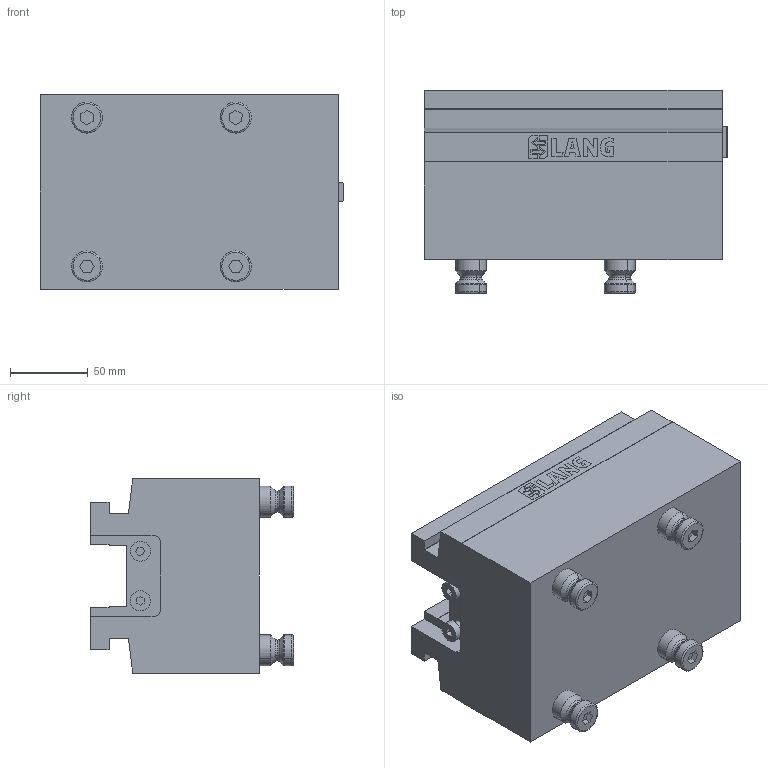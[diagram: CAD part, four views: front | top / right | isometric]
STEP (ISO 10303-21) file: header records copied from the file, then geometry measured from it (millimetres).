
FILE_DESCRIPTION (( 'STEP AP214' ), '1' );
FILE_NAME ('81022.STEP', '2020-10-28T06:42:05', ( '' ), ( '' ), 'SwSTEP 2.0', 'SolidWorks 2019', '' );
FILE_SCHEMA (( 'AUTOMOTIVE_DESIGN' ));
Length unit declared in the file: millimetre
Products named in the file (1): 81022
Bounding box: 195.49 x 131 x 125.6 mm (x, y, z)
Volume: 2266962.5 mm3; surface area: 142814.3 mm2
Topology: 9 solids, 9 shells, 489 faces, 1211 edges, 771 vertices
Faces by surface type: plane 304, cylinder 60, cone 49, bspline 40, torus 36
Entity records: 20147 total; most frequent: CARTESIAN_POINT 3181, ORIENTED_EDGE 2402, DIRECTION 2263, EDGE_CURVE 1201, LINE 881, VECTOR 881, VERTEX_POINT 771, AXIS2_PLACEMENT_3D 691
